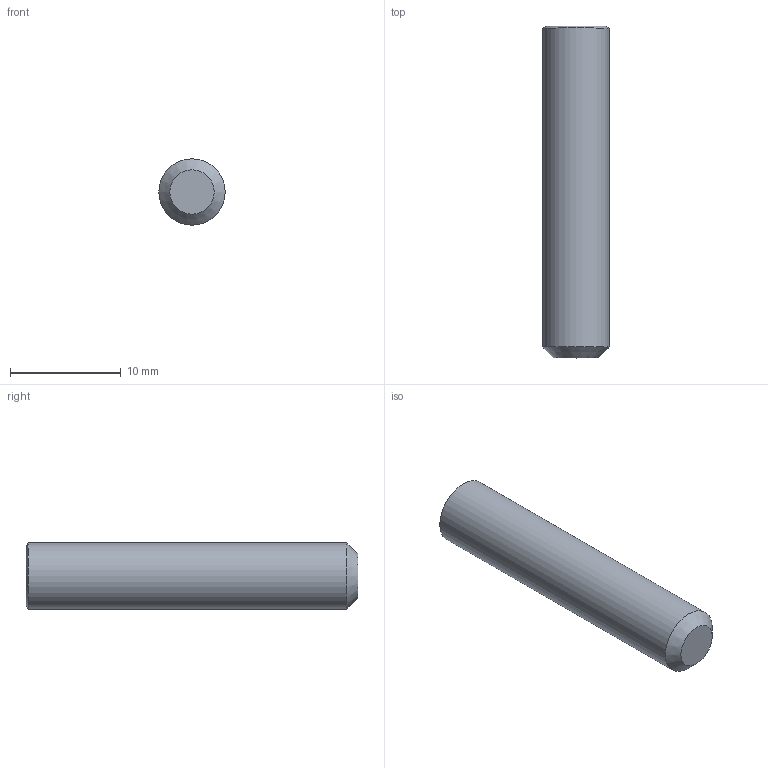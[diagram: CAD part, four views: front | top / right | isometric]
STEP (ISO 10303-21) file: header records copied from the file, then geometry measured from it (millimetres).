
FILE_DESCRIPTION(/* description */ (''),/* implementation_level */ '2;1');
FILE_NAME(/* name */ 'C:\Users\D\Documents\Inventor\各種小物\JIS\止めねじ\平先\M6\M6x30.stp',/* time_stamp */ '2022-06-23T14:26:06+09:00',/* author */ ('D'),/* organization */ (''),/* preprocessor_version */ 'ST-DEVELOPER v18',/* originating_system */ 'Autodesk Inventor 2020',/* authorisation */ '');
FILE_SCHEMA (('AUTOMOTIVE_DESIGN { 1 0 10303 214 3 1 1 }'));
Length unit declared in the file: millimetre
Products named in the file (1): M1.6x2
Bounding box: 6 x 30 x 6 mm (x, y, z)
Volume: 809 mm3; surface area: 645.7 mm2
Topology: 1 solids, 1 shells, 12 faces, 28 edges, 18 vertices
Faces by surface type: plane 8, cone 3, cylinder 1
Full cylindrical faces by diameter (mm): 6 x1
Entity records: 369 total; most frequent: CARTESIAN_POINT 72, ORIENTED_EDGE 54, DIRECTION 50, EDGE_CURVE 27, VERTEX_POINT 18, AXIS2_PLACEMENT_3D 17, LINE 16, VECTOR 16
